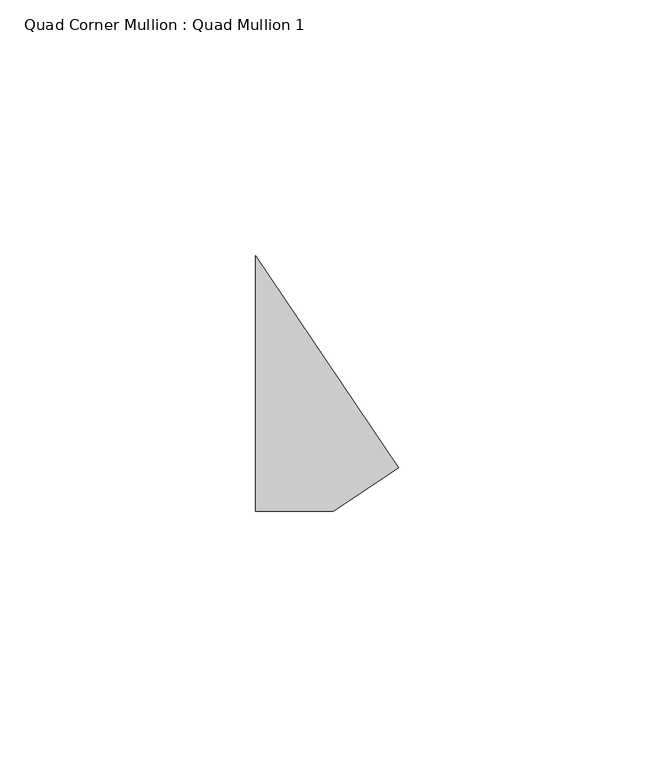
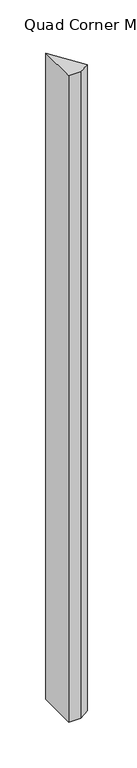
"""IFC4 building model written with IfcOpenShell, lengths in millimetres: member geometry, Quad Corner Mullion : Quad Mullion 1."""

from ifc_helpers import new_model, si_unit, frame, origin, place, context, project, spatial, polyline, outline, extrude, source, transform, mapped, element, save


def quad_corner_mullion_quad_mullion_1_d22678fb(model_context):
    return source(origin(), model_context, "Body", "SweptSolid", [
        extrude(outline(polyline([(20.3163781, -16.4518786), (7.643267, -25.0), (-7.643267, -25.0), (-7.643267, 25.0), (20.3163781, -16.4518786)])), frame((0.0, 0.0, -860.0), z_axis=(0.0, 0.0, 1.0), x_axis=(1.0, 0.0, 0.0)), (0.0, 0.0, 1.0), 860.0),
    ])


if __name__ == "__main__":
    model = new_model("IFC4")
    model_context = context("Model", 3, world=origin())
    ifc_project = project(units=[si_unit("LENGTHUNIT", "METRE", prefix="MILLI")], contexts=[model_context])
    site = spatial("IfcSite", under=ifc_project)
    building = spatial("IfcBuilding", under=site)
    placement = place(None, origin())
    quad_corner_mullion_quad_mullion_1_shape = quad_corner_mullion_quad_mullion_1_d22678fb(model_context)
    element("IfcMember", 1, ObjectType="Quad Corner Mullion : Quad Mullion 1", at=placement, inside=building, context=model_context, shape_type="MappedRepresentation", body=[
        mapped(quad_corner_mullion_quad_mullion_1_shape, transform((0.0, 0.0, 0.0), x_axis=(1.0, 0.0, 0.0), y_axis=(0.0, 1.0, 0.0), z_axis=(0.0, 0.0, 1.0))),
    ])
    save(model, "model.ifc")
